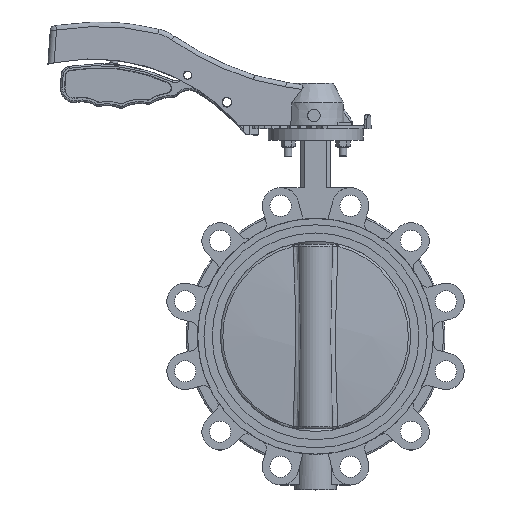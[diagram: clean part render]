
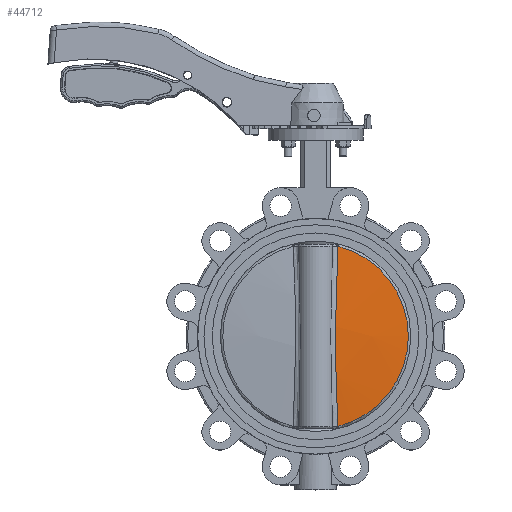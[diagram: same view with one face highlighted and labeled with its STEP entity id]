
A CAD part, top view. The second image highlights one B-rep face of the part: STEP entity #44712.
In plain terms, the highlighted spherical face has radius 1309.25 mm.
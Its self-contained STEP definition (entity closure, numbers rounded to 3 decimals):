
#550 = CARTESIAN_POINT ( 'NONE',  ( 184.581, 146.9, 52.107 ) ) ;
#3736 = DIRECTION ( 'NONE',  ( 0., 0., 1. ) ) ;
#5368 = CARTESIAN_POINT ( 'NONE',  ( 184.036, 216.073, 52.902 ) ) ;
#5606 = CARTESIAN_POINT ( 'NONE',  ( 187.068, 314.76, 47.579 ) ) ;
#5735 = CARTESIAN_POINT ( 'NONE',  ( 185.504, 275.345, 50.633 ) ) ;
#8102 = ORIENTED_EDGE ( 'NONE', *, *, #49415, .T. ) ;
#8385 = CIRCLE ( 'NONE', #60316, 122.026 ) ;
#10535 = CARTESIAN_POINT ( 'NONE',  ( 184.581, 245.72, 52.107 ) ) ;
#11259 = CARTESIAN_POINT ( 'NONE',  ( 185.504, 117.275, 50.633 ) ) ;
#11633 = CARTESIAN_POINT ( 'NONE',  ( 183.872, 196.31, 53.129 ) ) ;
#13559 = SPHERICAL_SURFACE ( 'NONE', #31537, 1309.253 ) ;
#13919 = EDGE_LOOP ( 'NONE', ( #8102, #31469 ) ) ;
#16116 = CARTESIAN_POINT ( 'NONE',  ( 186.255, 295.065, 49.274 ) ) ;
#16823 = CARTESIAN_POINT ( 'NONE',  ( 184.349, 235.836, 52.448 ) ) ;
#19689 = DIRECTION ( 'NONE',  ( -1., 0., 0. ) ) ;
#22035 = CARTESIAN_POINT ( 'NONE',  ( 186.661, 87.704, 48.483 ) ) ;
#23108 = VERTEX_POINT ( 'NONE', #5606 ) ;
#31469 = ORIENTED_EDGE ( 'NONE', *, *, #48770, .T. ) ;
#31537 = AXIS2_PLACEMENT_3D ( 'NONE', #57946, #58699, #64599 ) ;
#32983 = CARTESIAN_POINT ( 'NONE',  ( 187.068, 77.86, 47.579 ) ) ;
#33503 = CARTESIAN_POINT ( 'NONE',  ( 185.159, 127.144, 51.2 ) ) ;
#40146 = CARTESIAN_POINT ( 'NONE',  ( 185.159, 265.477, 51.2 ) ) ;
#40246 = FACE_OUTER_BOUND ( 'NONE', #13919, .T. ) ;
#40368 = VERTEX_POINT ( 'NONE', #32983 ) ;
#44712 = ADVANCED_FACE ( 'NONE', ( #40246 ), #13559, .T. ) ;
#45319 = CARTESIAN_POINT ( 'NONE',  ( 186.661, 304.916, 48.483 ) ) ;
#45855 = B_SPLINE_CURVE_WITH_KNOTS ( 'NONE', 3,
 ( #51190, #45319, #16116, #5735, #40146, #10535, #16823, #5368, #11633, #50108, #72664, #550, #33503, #11259, #62314, #22035, #56747 ),
 .UNSPECIFIED., .F., .F.,
 ( 4, 2, 2, 2, 1, 2, 2, 2, 4 ),
 ( 0., 0.03, 0.059, 0.089, 0.119, 0.148, 0.178, 0.208, 0.237 ),
 .UNSPECIFIED. ) ;
#48770 = EDGE_CURVE ( 'NONE', #23108, #40368, #45855, .T. ) ;
#49415 = EDGE_CURVE ( 'NONE', #40368, #23108, #8385, .T. ) ;
#50108 = CARTESIAN_POINT ( 'NONE',  ( 184.036, 176.547, 52.902 ) ) ;
#51190 = CARTESIAN_POINT ( 'NONE',  ( 187.068, 314.76, 47.579 ) ) ;
#56747 = CARTESIAN_POINT ( 'NONE',  ( 187.068, 77.86, 47.579 ) ) ;
#57946 = CARTESIAN_POINT ( 'NONE',  ( 157.742, 196.31, -1255.975 ) ) ;
#58699 = DIRECTION ( 'NONE',  ( 0., 1., 0. ) ) ;
#60316 = AXIS2_PLACEMENT_3D ( 'NONE', #70342, #3736, #19689 ) ;
#62314 = CARTESIAN_POINT ( 'NONE',  ( 186.255, 97.555, 49.274 ) ) ;
#64599 = DIRECTION ( 'NONE',  ( -1., 0., 0. ) ) ;
#70342 = CARTESIAN_POINT ( 'NONE',  ( 157.742, 196.31, 47.579 ) ) ;
#72664 = CARTESIAN_POINT ( 'NONE',  ( 184.349, 156.784, 52.448 ) ) ;
